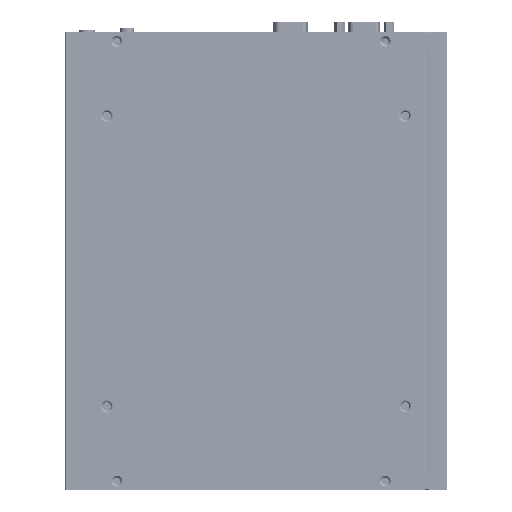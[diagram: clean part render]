
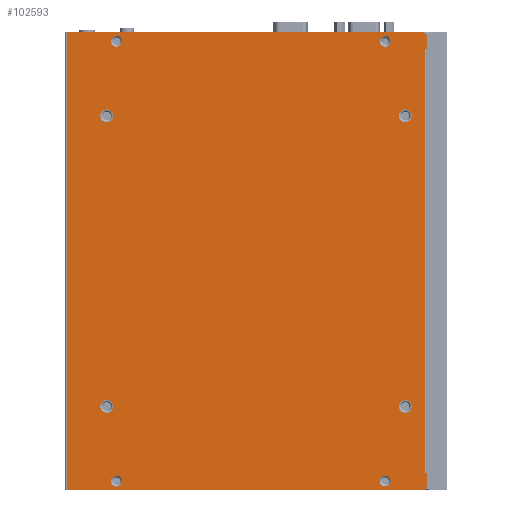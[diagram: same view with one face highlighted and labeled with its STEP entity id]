
A CAD part, left-side view. The second image highlights one B-rep face of the part: STEP entity #102593.
In plain terms, the highlighted planar face has unit normal (-1, 0, 0) as drawn and (0, -1, 0) by its records, which use the part's own axes.
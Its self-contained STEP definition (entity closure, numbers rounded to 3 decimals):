
#14912=DIRECTION('',(0.,0.,1.));
#14913=VECTOR('',#14912,6.3);
#14914=CARTESIAN_POINT('',(176.8,-80.75,-225.86));
#14915=LINE('',#14914,#14913);
#14919=DIRECTION('',(1.,0.,0.));
#14920=VECTOR('',#14919,179.);
#14921=CARTESIAN_POINT('',(-4.2,-80.75,2.14));
#14922=LINE('',#14921,#14920);
#14926=CARTESIAN_POINT('',(174.8,-80.75,0.14));
#14927=DIRECTION('',(0.,1.,0.));
#14928=DIRECTION('',(0.,0.,1.));
#14929=AXIS2_PLACEMENT_3D('',#14926,#14927,#14928);
#14934=CARTESIAN_POINT('',(174.8,-80.75,-225.86));
#14935=DIRECTION('',(0.,1.,0.));
#14936=DIRECTION('',(1.,0.,0.));
#14937=AXIS2_PLACEMENT_3D('',#14934,#14935,#14936);
#14942=CARTESIAN_POINT('',(166.,-80.75,-185.86));
#14943=DIRECTION('',(0.,-1.,0.));
#14944=DIRECTION('',(-1.,0.,0.));
#14945=AXIS2_PLACEMENT_3D('',#14942,#14943,#14944);
#14950=CARTESIAN_POINT('',(166.,-80.75,-185.86));
#14951=DIRECTION('',(0.,-1.,0.));
#14952=DIRECTION('',(1.,0.,0.));
#14953=AXIS2_PLACEMENT_3D('',#14950,#14951,#14952);
#14958=CARTESIAN_POINT('',(16.,-80.75,-185.86));
#14959=DIRECTION('',(0.,-1.,0.));
#14960=DIRECTION('',(-1.,0.,0.));
#14961=AXIS2_PLACEMENT_3D('',#14958,#14959,#14960);
#14966=CARTESIAN_POINT('',(16.,-80.75,-185.86));
#14967=DIRECTION('',(0.,-1.,0.));
#14968=DIRECTION('',(1.,0.,0.));
#14969=AXIS2_PLACEMENT_3D('',#14966,#14967,#14968);
#14974=CARTESIAN_POINT('',(166.,-80.75,-39.86));
#14975=DIRECTION('',(0.,-1.,0.));
#14976=DIRECTION('',(-1.,0.,0.));
#14977=AXIS2_PLACEMENT_3D('',#14974,#14975,#14976);
#14982=CARTESIAN_POINT('',(166.,-80.75,-39.86));
#14983=DIRECTION('',(0.,-1.,0.));
#14984=DIRECTION('',(1.,0.,0.));
#14985=AXIS2_PLACEMENT_3D('',#14982,#14983,#14984);
#14990=CARTESIAN_POINT('',(16.,-80.75,-39.86));
#14991=DIRECTION('',(0.,-1.,0.));
#14992=DIRECTION('',(-1.,0.,0.));
#14993=AXIS2_PLACEMENT_3D('',#14990,#14991,#14992);
#14998=CARTESIAN_POINT('',(16.,-80.75,-39.86));
#14999=DIRECTION('',(0.,-1.,0.));
#15000=DIRECTION('',(1.,0.,0.));
#15001=AXIS2_PLACEMENT_3D('',#14998,#14999,#15000);
#15006=CARTESIAN_POINT('',(155.95,-80.75,-2.36));
#15007=DIRECTION('',(0.,-1.,0.));
#15008=DIRECTION('',(0.,0.,1.));
#15009=AXIS2_PLACEMENT_3D('',#15006,#15007,#15008);
#15014=CARTESIAN_POINT('',(155.95,-80.75,-2.36));
#15015=DIRECTION('',(0.,-1.,0.));
#15016=DIRECTION('',(0.,0.,-1.));
#15017=AXIS2_PLACEMENT_3D('',#15014,#15015,#15016);
#15022=CARTESIAN_POINT('',(155.95,-80.75,-223.36));
#15023=DIRECTION('',(0.,-1.,0.));
#15024=DIRECTION('',(0.,0.,1.));
#15025=AXIS2_PLACEMENT_3D('',#15022,#15023,#15024);
#15030=CARTESIAN_POINT('',(155.95,-80.75,-223.36));
#15031=DIRECTION('',(0.,-1.,0.));
#15032=DIRECTION('',(0.,0.,-1.));
#15033=AXIS2_PLACEMENT_3D('',#15030,#15031,#15032);
#15038=CARTESIAN_POINT('',(21.,-80.75,-2.36));
#15039=DIRECTION('',(0.,-1.,0.));
#15040=DIRECTION('',(0.,0.,1.));
#15041=AXIS2_PLACEMENT_3D('',#15038,#15039,#15040);
#15046=CARTESIAN_POINT('',(21.,-80.75,-2.36));
#15047=DIRECTION('',(0.,-1.,0.));
#15048=DIRECTION('',(0.,0.,-1.));
#15049=AXIS2_PLACEMENT_3D('',#15046,#15047,#15048);
#15054=CARTESIAN_POINT('',(21.,-80.75,-223.36));
#15055=DIRECTION('',(0.,-1.,0.));
#15056=DIRECTION('',(0.,0.,1.));
#15057=AXIS2_PLACEMENT_3D('',#15054,#15055,#15056);
#15062=CARTESIAN_POINT('',(21.,-80.75,-223.36));
#15063=DIRECTION('',(0.,-1.,0.));
#15064=DIRECTION('',(0.,0.,-1.));
#15065=AXIS2_PLACEMENT_3D('',#15062,#15063,#15064);
#15077=DIRECTION('',(1.,0.,0.));
#15078=VECTOR('',#15077,179.);
#15079=CARTESIAN_POINT('',(-4.2,-80.75,-227.86));
#15080=LINE('',#15079,#15078);
#43502=DIRECTION('',(0.,0.,-1.));
#43503=VECTOR('',#43502,230.);
#43504=CARTESIAN_POINT('',(-4.2,-80.75,2.14));
#43505=LINE('',#43504,#43503);
#46840=DIRECTION('',(0.,0.,1.));
#46841=VECTOR('',#46840,6.3);
#46842=CARTESIAN_POINT('',(176.8,-80.75,-6.16));
#46843=LINE('',#46842,#46841);
#46847=DIRECTION('',(1.,0.,0.));
#46848=VECTOR('',#46847,0.8);
#46849=CARTESIAN_POINT('',(176.,-80.75,-6.16));
#46850=LINE('',#46849,#46848);
#46869=DIRECTION('',(0.,0.,1.));
#46870=VECTOR('',#46869,213.4);
#46871=CARTESIAN_POINT('',(176.,-80.75,-219.56));
#46872=LINE('',#46871,#46870);
#46891=DIRECTION('',(-1.,0.,0.));
#46892=VECTOR('',#46891,0.8);
#46893=CARTESIAN_POINT('',(176.8,-80.75,-219.56));
#46894=LINE('',#46893,#46892);
#87647=CARTESIAN_POINT('',(176.8,-80.75,-225.86));
#87648=CARTESIAN_POINT('',(176.8,-80.75,-219.56));
#87649=VERTEX_POINT('',#87647);
#87650=VERTEX_POINT('',#87648);
#87651=CARTESIAN_POINT('',(-4.2,-80.75,-227.86));
#87652=CARTESIAN_POINT('',(174.8,-80.75,-227.86));
#87653=VERTEX_POINT('',#87651);
#87654=VERTEX_POINT('',#87652);
#87655=CARTESIAN_POINT('',(-4.2,-80.75,2.14));
#87656=VERTEX_POINT('',#87655);
#87657=CARTESIAN_POINT('',(174.8,-80.75,2.14));
#87658=VERTEX_POINT('',#87657);
#87659=CARTESIAN_POINT('',(176.8,-80.75,0.14));
#87660=VERTEX_POINT('',#87659);
#87661=CARTESIAN_POINT('',(176.8,-80.75,-6.16));
#87662=VERTEX_POINT('',#87661);
#87663=CARTESIAN_POINT('',(176.,-80.75,-6.16));
#87664=VERTEX_POINT('',#87663);
#87665=CARTESIAN_POINT('',(176.,-80.75,-219.56));
#87666=VERTEX_POINT('',#87665);
#87667=CARTESIAN_POINT('',(162.75,-80.75,-185.86));
#87668=CARTESIAN_POINT('',(169.25,-80.75,-185.86));
#87669=VERTEX_POINT('',#87667);
#87670=VERTEX_POINT('',#87668);
#87671=CARTESIAN_POINT('',(12.75,-80.75,-185.86));
#87672=CARTESIAN_POINT('',(19.25,-80.75,-185.86));
#87673=VERTEX_POINT('',#87671);
#87674=VERTEX_POINT('',#87672);
#87675=CARTESIAN_POINT('',(162.75,-80.75,-39.86));
#87676=CARTESIAN_POINT('',(169.25,-80.75,-39.86));
#87677=VERTEX_POINT('',#87675);
#87678=VERTEX_POINT('',#87676);
#87679=CARTESIAN_POINT('',(12.75,-80.75,-39.86));
#87680=CARTESIAN_POINT('',(19.25,-80.75,-39.86));
#87681=VERTEX_POINT('',#87679);
#87682=VERTEX_POINT('',#87680);
#87683=CARTESIAN_POINT('',(155.95,-80.75,0.39));
#87684=CARTESIAN_POINT('',(155.95,-80.75,-5.11));
#87685=VERTEX_POINT('',#87683);
#87686=VERTEX_POINT('',#87684);
#87687=CARTESIAN_POINT('',(155.95,-80.75,-220.61));
#87688=CARTESIAN_POINT('',(155.95,-80.75,-226.11));
#87689=VERTEX_POINT('',#87687);
#87690=VERTEX_POINT('',#87688);
#87691=CARTESIAN_POINT('',(21.,-80.75,0.39));
#87692=CARTESIAN_POINT('',(21.,-80.75,-5.11));
#87693=VERTEX_POINT('',#87691);
#87694=VERTEX_POINT('',#87692);
#87695=CARTESIAN_POINT('',(21.,-80.75,-220.61));
#87696=CARTESIAN_POINT('',(21.,-80.75,-226.11));
#87697=VERTEX_POINT('',#87695);
#87698=VERTEX_POINT('',#87696);
#102520=CARTESIAN_POINT('',(-5.,-80.75,-227.86));
#102521=DIRECTION('',(0.,-1.,0.));
#102522=DIRECTION('',(0.,0.,-1.));
#102523=AXIS2_PLACEMENT_3D('',#102520,#102521,#102522);
#102524=PLANE('',#102523);
#102526=ORIENTED_EDGE('',*,*,#102525,.F.);
#102528=ORIENTED_EDGE('',*,*,#102527,.F.);
#102530=ORIENTED_EDGE('',*,*,#102529,.T.);
#102531=ORIENTED_EDGE('',*,*,#102471,.T.);
#102533=ORIENTED_EDGE('',*,*,#102532,.F.);
#102535=ORIENTED_EDGE('',*,*,#102534,.F.);
#102537=ORIENTED_EDGE('',*,*,#102536,.F.);
#102539=ORIENTED_EDGE('',*,*,#102538,.F.);
#102540=ORIENTED_EDGE('',*,*,#102510,.F.);
#102542=ORIENTED_EDGE('',*,*,#102541,.T.);
#102543=EDGE_LOOP('',(#102526,#102528,#102530,#102531,#102533,#102535,#102537,
#102539,#102540,#102542));
#102544=FACE_OUTER_BOUND('',#102543,.F.);
#102546=ORIENTED_EDGE('',*,*,#102545,.T.);
#102548=ORIENTED_EDGE('',*,*,#102547,.T.);
#102549=EDGE_LOOP('',(#102546,#102548));
#102550=FACE_BOUND('',#102549,.F.);
#102552=ORIENTED_EDGE('',*,*,#102551,.T.);
#102554=ORIENTED_EDGE('',*,*,#102553,.T.);
#102555=EDGE_LOOP('',(#102552,#102554));
#102556=FACE_BOUND('',#102555,.F.);
#102558=ORIENTED_EDGE('',*,*,#102557,.T.);
#102560=ORIENTED_EDGE('',*,*,#102559,.T.);
#102561=EDGE_LOOP('',(#102558,#102560));
#102562=FACE_BOUND('',#102561,.F.);
#102564=ORIENTED_EDGE('',*,*,#102563,.T.);
#102566=ORIENTED_EDGE('',*,*,#102565,.T.);
#102567=EDGE_LOOP('',(#102564,#102566));
#102568=FACE_BOUND('',#102567,.F.);
#102570=ORIENTED_EDGE('',*,*,#102569,.T.);
#102572=ORIENTED_EDGE('',*,*,#102571,.T.);
#102573=EDGE_LOOP('',(#102570,#102572));
#102574=FACE_BOUND('',#102573,.F.);
#102576=ORIENTED_EDGE('',*,*,#102575,.T.);
#102578=ORIENTED_EDGE('',*,*,#102577,.T.);
#102579=EDGE_LOOP('',(#102576,#102578));
#102580=FACE_BOUND('',#102579,.F.);
#102582=ORIENTED_EDGE('',*,*,#102581,.T.);
#102584=ORIENTED_EDGE('',*,*,#102583,.T.);
#102585=EDGE_LOOP('',(#102582,#102584));
#102586=FACE_BOUND('',#102585,.F.);
#102588=ORIENTED_EDGE('',*,*,#102587,.T.);
#102590=ORIENTED_EDGE('',*,*,#102589,.T.);
#102591=EDGE_LOOP('',(#102588,#102590));
#102592=FACE_BOUND('',#102591,.F.);
#14930=CIRCLE('',#14929,2.);
#14938=CIRCLE('',#14937,2.);
#14946=CIRCLE('',#14945,3.25);
#14954=CIRCLE('',#14953,3.25);
#14962=CIRCLE('',#14961,3.25);
#14970=CIRCLE('',#14969,3.25);
#14978=CIRCLE('',#14977,3.25);
#14986=CIRCLE('',#14985,3.25);
#14994=CIRCLE('',#14993,3.25);
#15002=CIRCLE('',#15001,3.25);
#15010=CIRCLE('',#15009,2.75);
#15018=CIRCLE('',#15017,2.75);
#15026=CIRCLE('',#15025,2.75);
#15034=CIRCLE('',#15033,2.75);
#15042=CIRCLE('',#15041,2.75);
#15050=CIRCLE('',#15049,2.75);
#15058=CIRCLE('',#15057,2.75);
#15066=CIRCLE('',#15065,2.75);
#102471=EDGE_CURVE('',#87658,#87660,#14930,.T.);
#102510=EDGE_CURVE('',#87649,#87650,#14915,.T.);
#102525=EDGE_CURVE('',#87653,#87654,#15080,.T.);
#102527=EDGE_CURVE('',#87656,#87653,#43505,.T.);
#102529=EDGE_CURVE('',#87656,#87658,#14922,.T.);
#102532=EDGE_CURVE('',#87662,#87660,#46843,.T.);
#102534=EDGE_CURVE('',#87664,#87662,#46850,.T.);
#102536=EDGE_CURVE('',#87666,#87664,#46872,.T.);
#102538=EDGE_CURVE('',#87650,#87666,#46894,.T.);
#102541=EDGE_CURVE('',#87649,#87654,#14938,.T.);
#102545=EDGE_CURVE('',#87669,#87670,#14946,.T.);
#102547=EDGE_CURVE('',#87670,#87669,#14954,.T.);
#102551=EDGE_CURVE('',#87673,#87674,#14962,.T.);
#102553=EDGE_CURVE('',#87674,#87673,#14970,.T.);
#102557=EDGE_CURVE('',#87677,#87678,#14978,.T.);
#102559=EDGE_CURVE('',#87678,#87677,#14986,.T.);
#102563=EDGE_CURVE('',#87681,#87682,#14994,.T.);
#102565=EDGE_CURVE('',#87682,#87681,#15002,.T.);
#102569=EDGE_CURVE('',#87685,#87686,#15010,.T.);
#102571=EDGE_CURVE('',#87686,#87685,#15018,.T.);
#102575=EDGE_CURVE('',#87689,#87690,#15026,.T.);
#102577=EDGE_CURVE('',#87690,#87689,#15034,.T.);
#102581=EDGE_CURVE('',#87693,#87694,#15042,.T.);
#102583=EDGE_CURVE('',#87694,#87693,#15050,.T.);
#102587=EDGE_CURVE('',#87697,#87698,#15058,.T.);
#102589=EDGE_CURVE('',#87698,#87697,#15066,.T.);
#102593=ADVANCED_FACE('',(#102544,#102550,#102556,#102562,#102568,#102574,
#102580,#102586,#102592),#102524,.T.);
